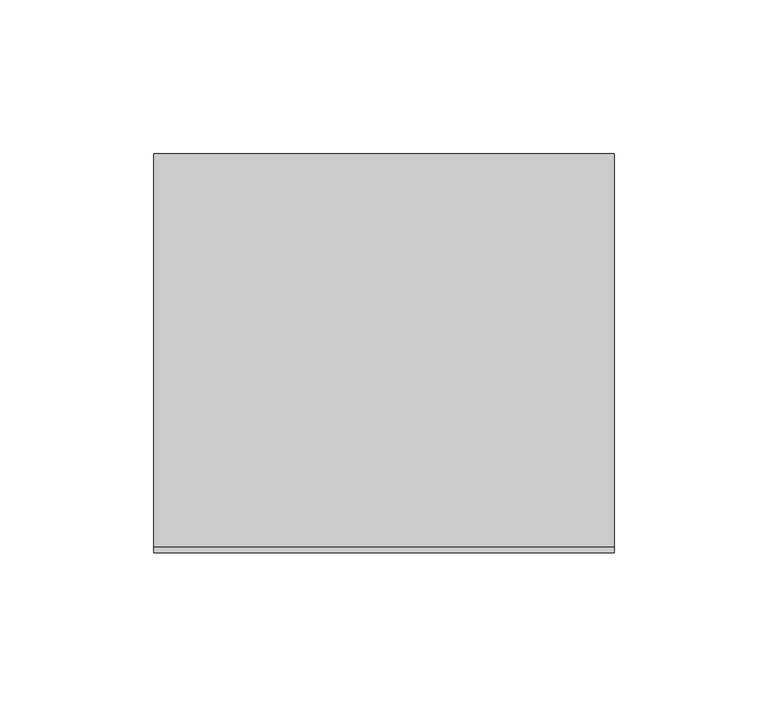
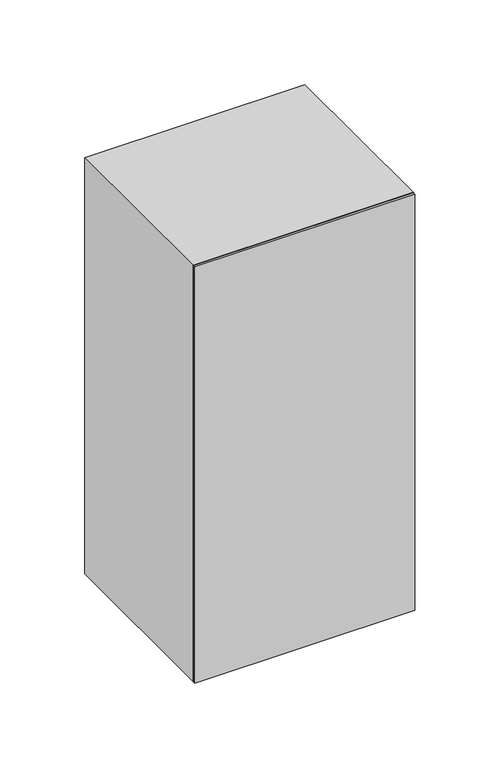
"""IFC4 building model written with IfcOpenShell, lengths in millimetres: proxy geometry, ЩУРН-1_6 : ЩУРН-1/6."""

from ifc_helpers import new_model, si_unit, point, frame, frame_2d, origin, origin_with_axes, place, context, project, spatial, polyline, circle_curve, trimmed, segment, composite_curve, outline, extrude, source, transform, mapped, element, save


def electrical_equipment_028161d4(model_context):
    return source(origin(), model_context, "Body", "SweptSolid", [
        extrude(outline(polyline([(294.0, -69.0), (6.0, -69.0), (6.0, 69.0), (294.0, 69.0), (294.0, -69.0)]), holes=[composite_curve([segment(trimmed(circle_curve(frame_2d((255.0, 30.0)), 10.0), [point((265.0, 30.0))], [point((255.0, 40.0))], True, "CARTESIAN"), True, "CONTINUOUS"), segment(polyline([(255.0, 40.0), (225.0, 40.0)]), True, "CONTINUOUS"), segment(trimmed(circle_curve(frame_2d((225.0, 30.0)), 10.0), [point((225.0, 40.0))], [point((215.0, 30.0))], True, "CARTESIAN"), True, "CONTINUOUS"), segment(polyline([(215.0, 30.0), (215.0, -30.0)]), True, "CONTINUOUS"), segment(trimmed(circle_curve(frame_2d((225.0, -30.0)), 10.0), [point((215.0, -30.0))], [point((225.0, -40.0))], True, "CARTESIAN"), True, "CONTINUOUS"), segment(polyline([(225.0, -40.0), (255.0, -40.0)]), True, "CONTINUOUS"), segment(trimmed(circle_curve(frame_2d((255.0, -30.0)), 10.0), [point((255.0, -40.0))], [point((265.0, -30.0))], True, "CARTESIAN"), True, "CONTINUOUS"), segment(polyline([(265.0, -30.0), (265.0, 0.0), (265.0, 30.0)]), True, "CONTINUOUS")], self_intersect=False), polyline([(56.0, -55.0), (96.0, -55.0), (96.0, 55.0), (56.0, 55.0), (56.0, -55.0)])]), frame((0.0, 127.0, 0.0), z_axis=(0.0, 1.0, 0.0), x_axis=(0.0, 0.0, 1.0)), (0.0, 0.0, 1.0), 3.0),
        extrude(outline(polyline([(300.0, -75.0033905), (0.0, -75.0033905), (0.0, 74.9966095), (300.0, 74.9966095), (300.0, -75.0033905)]), holes=[polyline([(295.0, -70.0), (295.0, 70.0), (5.0, 70.0), (5.0, -70.0), (295.0, -70.0)])]), frame((0.0, 2.0, 0.0), z_axis=(0.0, 1.0, 0.0), x_axis=(0.0, 0.0, 1.0)), (0.0, 0.0, 1.0), 128.0),
        extrude(outline(polyline([(75.0, 0.0), (-75.0, 0.0), (-75.0, 2.0), (75.0, 2.0), (75.0, 0.0)])), origin_with_axes(), (0.0, 0.0, 1.0), 300.0),
    ])


if __name__ == "__main__":
    model = new_model("IFC4")
    model_context = context("Model", 3, world=origin())
    ifc_project = project(units=[si_unit("LENGTHUNIT", "METRE", prefix="MILLI")], contexts=[model_context])
    site = spatial("IfcSite", under=ifc_project)
    building = spatial("IfcBuilding", under=site)
    placement = place(None, origin())
    electrical_equipment_shape = electrical_equipment_028161d4(model_context)
    element("IfcBuildingElementProxy", 1, Name="ЩУРН-1_6 : ЩУРН-1/6", ObjectType="ЩУРН-1_6 : ЩУРН-1/6", at=placement, inside=building, context=model_context, shape_type="MappedRepresentation", body=[
        mapped(electrical_equipment_shape, transform((0.0, 0.0, 0.0), x_axis=(1.0, 0.0, 0.0), y_axis=(0.0, 1.0, 0.0), z_axis=(0.0, 0.0, 1.0))),
    ])
    save(model, "model.ifc")
